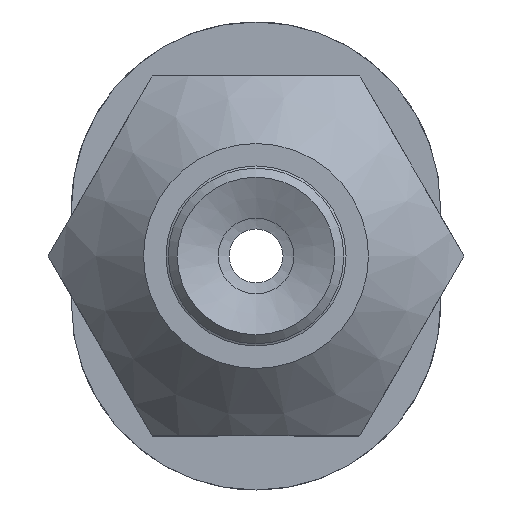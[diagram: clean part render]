
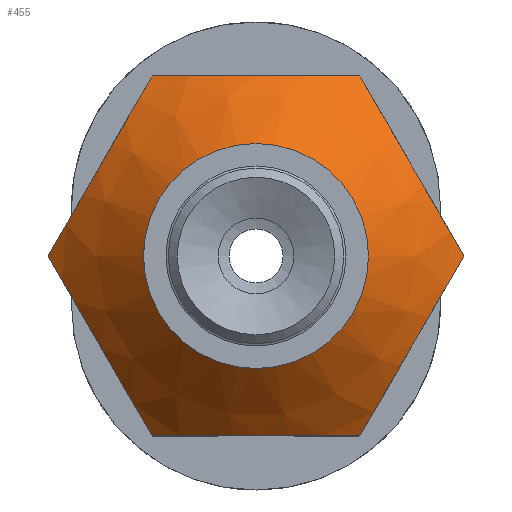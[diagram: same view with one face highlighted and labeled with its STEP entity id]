
A CAD part, front view. The second image highlights one B-rep face of the part: STEP entity #455.
In plain terms, the highlighted conical face has half-angle 45 degrees and reference radius 2.5 mm.
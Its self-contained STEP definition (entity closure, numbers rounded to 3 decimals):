
#455=ADVANCED_FACE('',(#594,#595),#596,.T.);
#594=FACE_BOUND('',#938,.T.);
#595=FACE_OUTER_BOUND('',#939,.T.);
#596=CONICAL_SURFACE('',#940,2.5,0.785);
#938=EDGE_LOOP('',(#1526));
#939=EDGE_LOOP('',(#1527,#1528,#1529,#1530,#1531,#1532));
#940=AXIS2_PLACEMENT_3D('',#1533,#1534,#1535);
#1526=ORIENTED_EDGE('',*,*,#2381,.F.);
#1527=ORIENTED_EDGE('',*,*,#2382,.F.);
#1528=ORIENTED_EDGE('',*,*,#2383,.F.);
#1529=ORIENTED_EDGE('',*,*,#2384,.F.);
#1530=ORIENTED_EDGE('',*,*,#2385,.F.);
#1531=ORIENTED_EDGE('',*,*,#2386,.F.);
#1532=ORIENTED_EDGE('',*,*,#2387,.F.);
#1533=CARTESIAN_POINT('',(0.0,0.,0.0));
#1534=DIRECTION('',(-0.0,1.0,-0.0));
#1535=DIRECTION('',(0.0,0.0,1.0));
#2381=EDGE_CURVE('',#2610,#2610,#2611,.T.);
#2382=EDGE_CURVE('',#2612,#2613,#2614,.T.);
#2383=EDGE_CURVE('',#2615,#2612,#2616,.T.);
#2384=EDGE_CURVE('',#2617,#2615,#2618,.T.);
#2385=EDGE_CURVE('',#2619,#2617,#2620,.T.);
#2386=EDGE_CURVE('',#2621,#2619,#2622,.T.);
#2387=EDGE_CURVE('',#2613,#2621,#2623,.T.);
#2610=VERTEX_POINT('',#3000);
#2611=CIRCLE('',#3001,2.5);
#2612=VERTEX_POINT('',#3002);
#2613=VERTEX_POINT('',#3003);
#2614=B_SPLINE_CURVE_WITH_KNOTS('',2,(#3004,#3005,#3006,#3007,#3008),.UNSPECIFIED.,.F.,.F.,(3,2,3),(0.0,0.5,1.0),.UNSPECIFIED.);
#2615=VERTEX_POINT('',#3009);
#2616=B_SPLINE_CURVE_WITH_KNOTS('',2,(#3010,#3011,#3012,#3013,#3014),.UNSPECIFIED.,.F.,.F.,(3,2,3),(0.0,0.5,1.0),.UNSPECIFIED.);
#2617=VERTEX_POINT('',#3015);
#2618=B_SPLINE_CURVE_WITH_KNOTS('',2,(#3016,#3017,#3018,#3019,#3020),.UNSPECIFIED.,.F.,.F.,(3,2,3),(0.0,0.5,1.0),.UNSPECIFIED.);
#2619=VERTEX_POINT('',#3021);
#2620=B_SPLINE_CURVE_WITH_KNOTS('',2,(#3022,#3023,#3024,#3025,#3026),.UNSPECIFIED.,.F.,.F.,(3,2,3),(0.0,0.5,1.0),.UNSPECIFIED.);
#2621=VERTEX_POINT('',#3027);
#2622=B_SPLINE_CURVE_WITH_KNOTS('',2,(#3028,#3029,#3030,#3031,#3032),.UNSPECIFIED.,.F.,.F.,(3,2,3),(0.0,0.5,1.0),.UNSPECIFIED.);
#2623=B_SPLINE_CURVE_WITH_KNOTS('',2,(#3033,#3034,#3035,#3036,#3037),.UNSPECIFIED.,.F.,.F.,(3,2,3),(0.0,0.5,1.0),.UNSPECIFIED.);
#3000=CARTESIAN_POINT('',(0.0,0.,-2.5));
#3001=AXIS2_PLACEMENT_3D('',#3961,#3962,#3963);
#3002=CARTESIAN_POINT('',(4.619,2.119,0.));
#3003=CARTESIAN_POINT('',(2.309,2.119,-4.0));
#3004=CARTESIAN_POINT('',(4.619,2.119,0.));
#3005=CARTESIAN_POINT('',(4.002,1.502,-1.068));
#3006=CARTESIAN_POINT('',(3.468,1.5,-1.993));
#3007=CARTESIAN_POINT('',(2.93,1.498,-2.924));
#3008=CARTESIAN_POINT('',(2.309,2.119,-4.));
#3009=CARTESIAN_POINT('',(2.309,2.119,4.0));
#3010=CARTESIAN_POINT('',(2.309,2.119,4.0));
#3011=CARTESIAN_POINT('',(2.926,1.502,2.932));
#3012=CARTESIAN_POINT('',(3.46,1.5,2.007));
#3013=CARTESIAN_POINT('',(3.998,1.498,1.076));
#3014=CARTESIAN_POINT('',(4.619,2.119,0.));
#3015=CARTESIAN_POINT('',(-2.309,2.119,4.0));
#3016=CARTESIAN_POINT('',(-2.309,2.119,4.0));
#3017=CARTESIAN_POINT('',(-1.073,1.5,4.0));
#3018=CARTESIAN_POINT('',(-0.001,1.5,4.0));
#3019=CARTESIAN_POINT('',(1.071,1.5,4.0));
#3020=CARTESIAN_POINT('',(2.309,2.119,4.0));
#3021=CARTESIAN_POINT('',(-4.619,2.119,0.));
#3022=CARTESIAN_POINT('',(-4.619,2.119,0.));
#3023=CARTESIAN_POINT('',(-4.002,1.502,1.068));
#3024=CARTESIAN_POINT('',(-3.468,1.5,1.993));
#3025=CARTESIAN_POINT('',(-2.93,1.498,2.924));
#3026=CARTESIAN_POINT('',(-2.309,2.119,4.));
#3027=CARTESIAN_POINT('',(-2.309,2.119,-4.0));
#3028=CARTESIAN_POINT('',(-2.309,2.119,-4.0));
#3029=CARTESIAN_POINT('',(-2.926,1.502,-2.932));
#3030=CARTESIAN_POINT('',(-3.46,1.5,-2.007));
#3031=CARTESIAN_POINT('',(-3.998,1.498,-1.076));
#3032=CARTESIAN_POINT('',(-4.619,2.119,0.));
#3033=CARTESIAN_POINT('',(2.309,2.119,-4.0));
#3034=CARTESIAN_POINT('',(1.073,1.5,-4.0));
#3035=CARTESIAN_POINT('',(0.001,1.5,-4.0));
#3036=CARTESIAN_POINT('',(-1.071,1.5,-4.0));
#3037=CARTESIAN_POINT('',(-2.309,2.119,-4.0));
#3961=CARTESIAN_POINT('',(0.0,0.,0.0));
#3962=DIRECTION('',(0.0,-1.0,0.0));
#3963=DIRECTION('',(0.0,0.0,-1.0));
